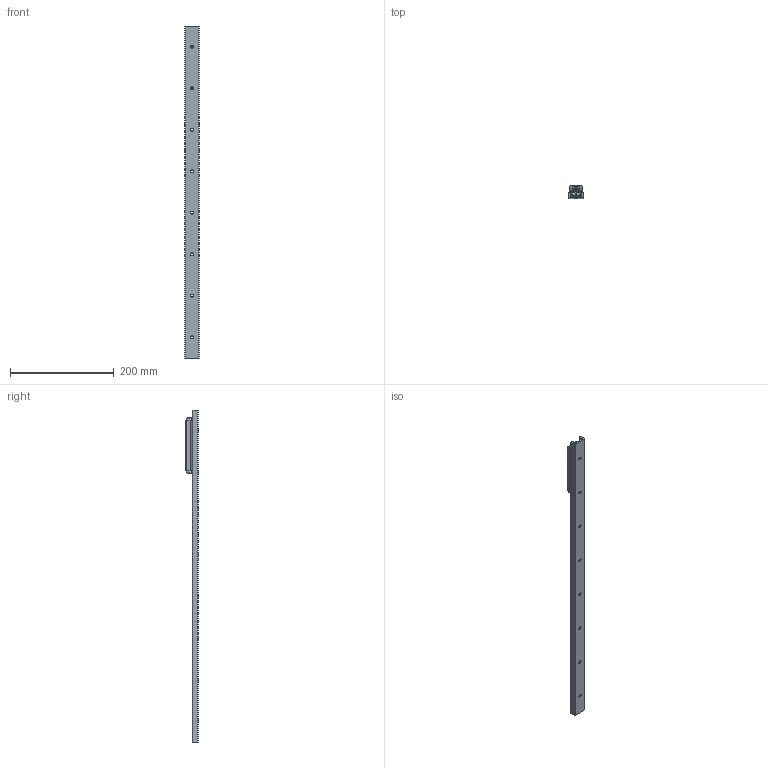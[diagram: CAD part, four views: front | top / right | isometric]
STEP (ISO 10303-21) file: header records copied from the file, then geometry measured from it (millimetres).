
FILE_DESCRIPTION( ( 'STEP AP214' ), '1' );
FILE_NAME( 'p:/temp/worker_16/temp/exporttempdir_2312_50_qhSPU/format_0/TGV-00640_1_RV28G-3.stp', '2020-11-20T15:16:03', ( 'License CC BY-ND 4.0' ), ( 'CADENAS' ), ' ', 'PARTsolutions', ' ' );
FILE_SCHEMA( ( 'AUTOMOTIVE_DESIGN { 1 0 10303 214 1 1 1 1 }' ) );
Length unit declared in the file: millimetre
Products named in the file (6): TGV-00640/1/RV28G-3; _TGV28-0640-(3-1); _RV28G-3-slider; _RGNV28R; _RGAV28R; _WR28G-01
Assembly tree (7 placements, depth 2):
  TGV-00640/1/RV28G-3
    _TGV28-0640-(3-1)
    _RV28G-3-slider
    _RGNV28R  x2
    _RGAV28R
    _WR28G-01  x2
Bounding box: 28 x 24 x 640 mm (x, y, z)
Volume: 128899.9 mm3; surface area: 80601.6 mm2
Topology: 7 solids, 7 shells, 1028 faces, 2685 edges, 1753 vertices
Faces by surface type: plane 657, cylinder 288, cone 48, bspline 26, torus 9
Full cylindrical faces by diameter (mm): 1.27 x4, 2 x2, 2.5 x6, 4 x4, 4.134 x4, 4.2 x3, 5 x3, 5.5 x3, 5.75 x8, 7 x5, 7.5 x1, 8 x6, 10.8 x3, 17 x3, 20.75 x6
Entity records: 24611 total; most frequent: CARTESIAN_POINT 3939, DIRECTION 3280, ORIENTED_EDGE 3042, EDGE_CURVE 1521, AXIS2_PLACEMENT_3D 1245, VERTEX_POINT 1053, EDGE_LOOP 839, LINE 790
